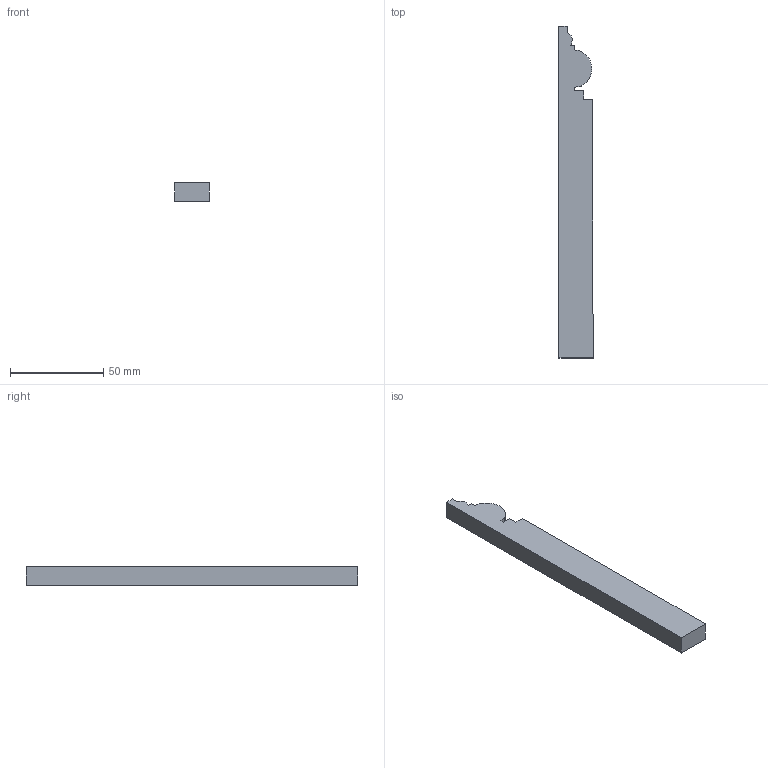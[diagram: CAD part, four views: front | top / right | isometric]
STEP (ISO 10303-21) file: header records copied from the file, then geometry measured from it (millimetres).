
FILE_DESCRIPTION (( 'STEP AP203' ), '1' );
FILE_NAME ('Ab212-7FJ.STEP', '2024-02-17T10:03:11', ( '' ), ( '' ), 'SwSTEP 2.0', 'SolidWorks 2020', '' );
FILE_SCHEMA (( 'CONFIG_CONTROL_DESIGN' ));
Length unit declared in the file: millimetre
Products named in the file (1): Ab212-7FJ
Bounding box: 18.32 x 177.62 x 10 mm (x, y, z)
Volume: 29808.5 mm3; surface area: 9974.3 mm2
Topology: 1 solids, 1 shells, 44 faces, 126 edges, 84 vertices
Faces by surface type: plane 44
Entity records: 1487 total; most frequent: CARTESIAN_POINT 255, ORIENTED_EDGE 252, DIRECTION 216, EDGE_CURVE 126, LINE 126, VECTOR 126, VERTEX_POINT 84, AXIS2_PLACEMENT_3D 45
